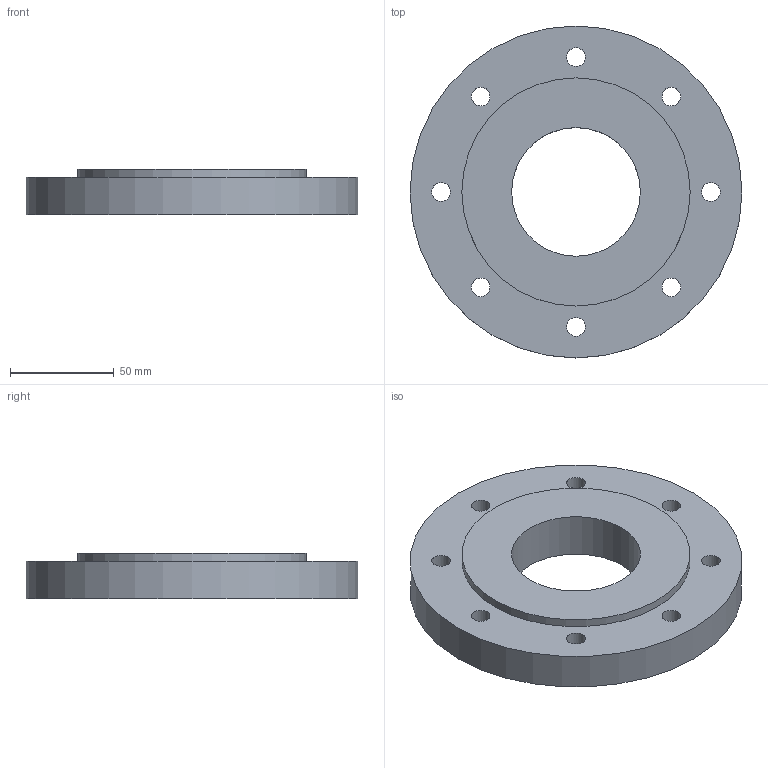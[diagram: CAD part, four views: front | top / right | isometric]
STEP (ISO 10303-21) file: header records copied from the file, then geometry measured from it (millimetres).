
FILE_DESCRIPTION(('Open CASCADE Model'),'2;1');
FILE_NAME('Open CASCADE Shape Model','2026-07-12T13:14:43',('Author'),( 'Open CASCADE'),'Open CASCADE STEP processor 7.9','build123d', 'Unknown');
FILE_SCHEMA(('AUTOMOTIVE_DESIGN { 1 0 10303 214 1 1 1 1 }'));
Length unit declared in the file: millimetre
Products named in the file (1): COMPOUND
Bounding box: 160 x 160 x 22 mm (x, y, z)
Volume: 324344.3 mm3; surface area: 51943.1 mm2
Topology: 1 solids, 1 shells, 14 faces, 33 edges, 22 vertices
Faces by surface type: cylinder 11, plane 3
Full cylindrical faces by diameter (mm): 9 x8, 62 x1, 110 x1, 160 x1
Entity records: 894 total; most frequent: DIRECTION 151, CARTESIAN_POINT 136, ORIENTED_EDGE 66, PCURVE 66, DEFINITIONAL_REPRESENTATION 66, LINE 55, VECTOR 55, CIRCLE 44
